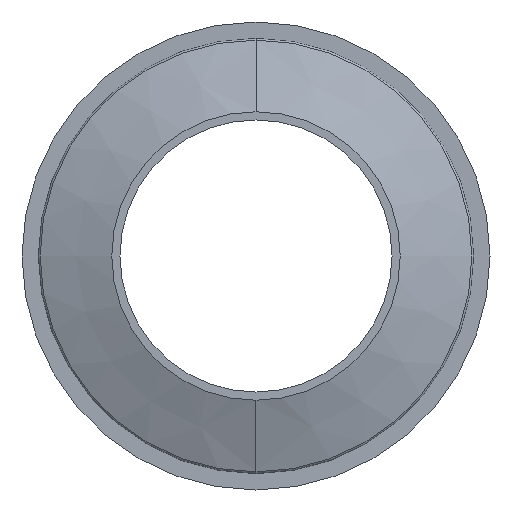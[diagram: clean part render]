
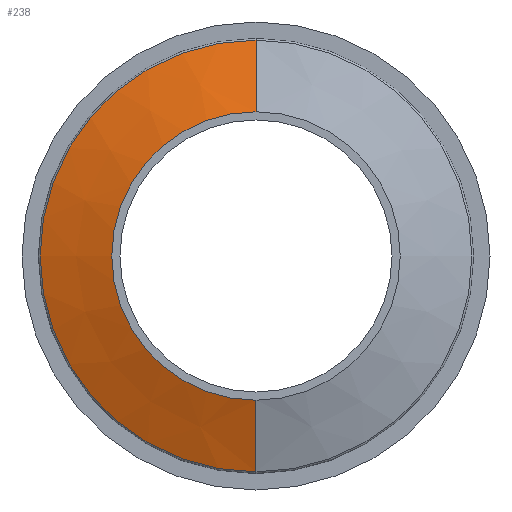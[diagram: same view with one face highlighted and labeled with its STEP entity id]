
A CAD part, left-side view. The second image highlights one B-rep face of the part: STEP entity #238.
In plain terms, the highlighted conical face has half-angle 70 degrees and reference radius 39.67 mm.
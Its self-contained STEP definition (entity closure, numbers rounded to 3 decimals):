
#4 = DIRECTION ( 'NONE',  ( -1., 0., 0. ) ) ;
#29 = ORIENTED_EDGE ( 'NONE', *, *, #467, .T. ) ;
#32 = CONICAL_SURFACE ( 'NONE', #475, 39.67, 1.222 ) ;
#49 = VERTEX_POINT ( 'NONE', #517 ) ;
#54 = CIRCLE ( 'NONE', #491, 26.5 ) ;
#84 = CARTESIAN_POINT ( 'NONE',  ( -13.419, 0., 0. ) ) ;
#106 = DIRECTION ( 'NONE',  ( 1., 0., 0. ) ) ;
#109 = ORIENTED_EDGE ( 'NONE', *, *, #436, .F. ) ;
#132 = VECTOR ( 'NONE', #258, 1000. ) ;
#139 = CARTESIAN_POINT ( 'NONE',  ( -8.626, 0., 0. ) ) ;
#141 = CARTESIAN_POINT ( 'NONE',  ( -8.626, 0., 39.67 ) ) ;
#151 = CARTESIAN_POINT ( 'NONE',  ( -8.626, 0., -39.67 ) ) ;
#170 = VERTEX_POINT ( 'NONE', #151 ) ;
#173 = DIRECTION ( 'NONE',  ( 0., 0., 1. ) ) ;
#178 = CARTESIAN_POINT ( 'NONE',  ( -13.419, 0., 26.5 ) ) ;
#198 = EDGE_LOOP ( 'NONE', ( #360, #461, #29, #109 ) ) ;
#214 = EDGE_CURVE ( 'NONE', #455, #49, #54, .T. ) ;
#220 = DIRECTION ( 'NONE',  ( -1., 0., 0. ) ) ;
#225 = LINE ( 'NONE', #346, #132 ) ;
#238 = ADVANCED_FACE ( 'NONE', ( #266 ), #32, .T. ) ;
#239 = DIRECTION ( 'NONE',  ( 0., 0., 1. ) ) ;
#258 = DIRECTION ( 'NONE',  ( 0.342, 0., -0.94 ) ) ;
#263 = VECTOR ( 'NONE', #519, 1000. ) ;
#264 = CARTESIAN_POINT ( 'NONE',  ( -8.626, 0., 39.67 ) ) ;
#266 = FACE_OUTER_BOUND ( 'NONE', #198, .T. ) ;
#270 = AXIS2_PLACEMENT_3D ( 'NONE', #139, #220, #173 ) ;
#316 = DIRECTION ( 'NONE',  ( 0., 0., -1. ) ) ;
#346 = CARTESIAN_POINT ( 'NONE',  ( -8.626, 0., -39.67 ) ) ;
#360 = ORIENTED_EDGE ( 'NONE', *, *, #214, .F. ) ;
#432 = CARTESIAN_POINT ( 'NONE',  ( -8.626, 0., 0. ) ) ;
#436 = EDGE_CURVE ( 'NONE', #49, #170, #225, .T. ) ;
#455 = VERTEX_POINT ( 'NONE', #178 ) ;
#461 = ORIENTED_EDGE ( 'NONE', *, *, #478, .T. ) ;
#467 = EDGE_CURVE ( 'NONE', #480, #170, #503, .T. ) ;
#472 = LINE ( 'NONE', #264, #263 ) ;
#475 = AXIS2_PLACEMENT_3D ( 'NONE', #432, #106, #316 ) ;
#478 = EDGE_CURVE ( 'NONE', #455, #480, #472, .T. ) ;
#480 = VERTEX_POINT ( 'NONE', #141 ) ;
#491 = AXIS2_PLACEMENT_3D ( 'NONE', #84, #4, #239 ) ;
#503 = CIRCLE ( 'NONE', #270, 39.67 ) ;
#517 = CARTESIAN_POINT ( 'NONE',  ( -13.419, 0., -26.5 ) ) ;
#519 = DIRECTION ( 'NONE',  ( 0.342, 0., 0.94 ) ) ;
